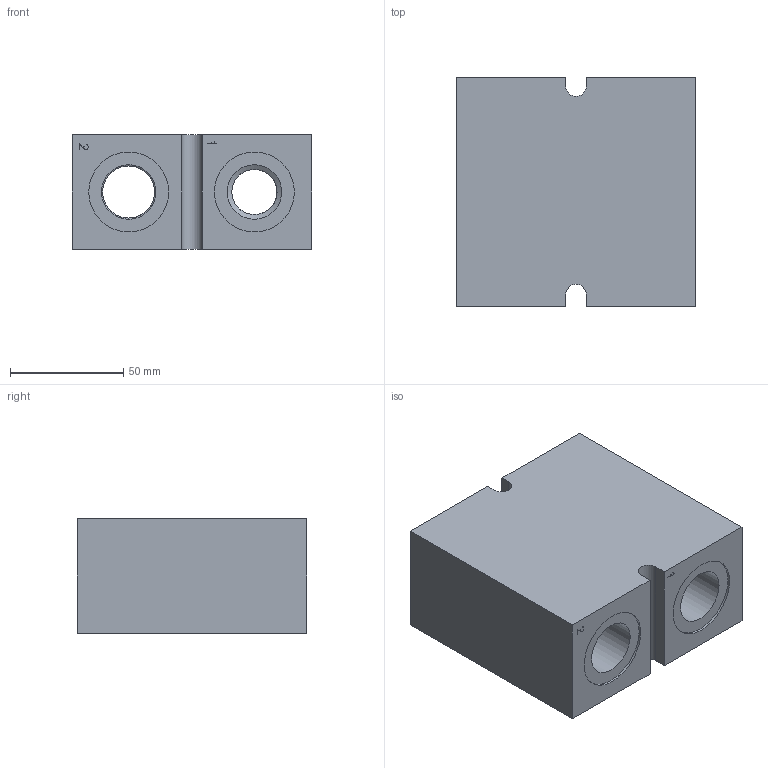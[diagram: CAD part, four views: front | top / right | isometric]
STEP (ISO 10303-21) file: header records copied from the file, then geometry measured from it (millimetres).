
FILE_DESCRIPTION( ( 'Unknown' ), '1' );
FILE_NAME( 'G:/Graphic Design/Graphic Design 2/Data Sheets/Delta Bodies/DRAWINGS/B-DSJD4.stp', 'Unknown', ( 'Unknown' ), ( 'Unknown' ), 'PSStep 16.0.42', 'Unknown', ' ' );
FILE_SCHEMA( ( 'AUTOMOTIVE_DESIGN { 1 0 10303 214 1 1 1 1 }' ) );
Length unit declared in the file: millimetre
Products named in the file (2): Assem1; B-DSJD4
Assembly tree (1 placements, depth 2):
  Assem1
    B-DSJD4
Bounding box: 106 x 101.6 x 50.8 mm (x, y, z)
Surface area: 59907.9 mm2 (no closed solid volume)
Topology: 0 solids, 139 shells, 139 faces, 696 edges, 664 vertices
Faces by surface type: plane 101, cylinder 27, cone 10, torus 1
Full cylindrical faces by diameter (mm): 0.2 x4, 20 x2, 23 x1, 24.117 x8, 25.4 x1, 28.651 x1, 31.806 x1, 35.33 x4, 48.514 x1
Entity records: 8010 total; most frequent: CARTESIAN_POINT 2437, DIRECTION 714, ORIENTED_EDGE 646, EDGE_CURVE 646, VERTEX_POINT 646, B_SPLINE_CURVE_WITH_KNOTS 320, AXIS2_PLACEMENT_3D 247, LINE 220
